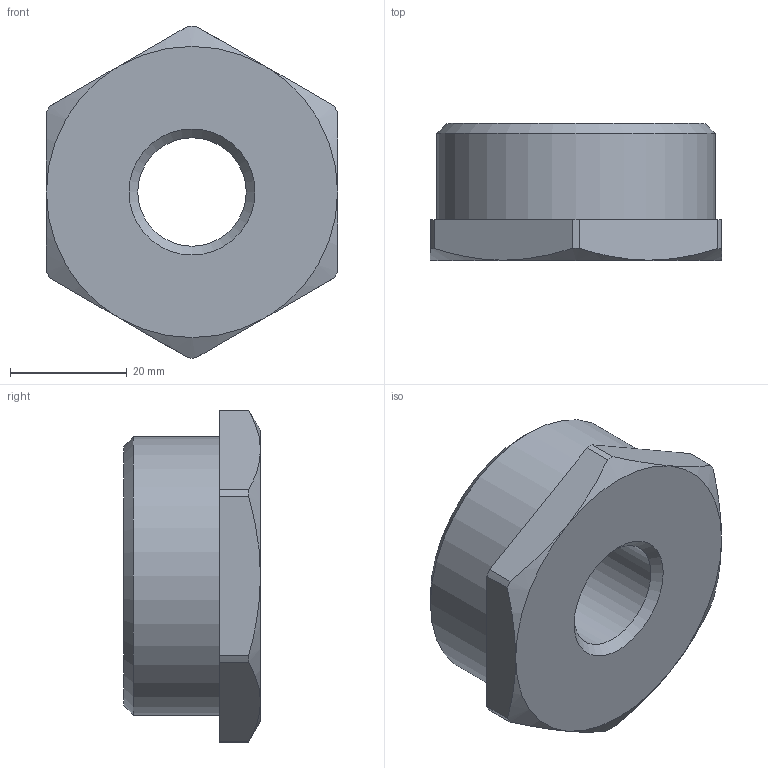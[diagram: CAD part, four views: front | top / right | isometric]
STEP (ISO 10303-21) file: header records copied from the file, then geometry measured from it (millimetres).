
FILE_DESCRIPTION(('STEP AP203'), '1');
FILE_NAME('ÂÐ.753128.035 - VTr.581.N.0804 Ôèò. ðåçüá', '2024-07-04T13:29:24', ('Boss'), (''), 'C3D Converter', 'C3D Toolkit', '');
FILE_SCHEMA(('CONFIG_CONTROL_DESIGN'));
Length unit declared in the file: millimetre
Products named in the file (1): ВР.753128.035
Bounding box: 50 x 23.5 x 57 mm (x, y, z)
Volume: 37868 mm3; surface area: 8490.8 mm2
Topology: 1 solids, 1 shells, 26 faces, 60 edges, 37 vertices
Faces by surface type: plane 9, cone 9, cylinder 8
Full cylindrical faces by diameter (mm): 18.632 x1, 47.803 x1
Entity records: 965 total; most frequent: CARTESIAN_POINT 399, DIRECTION 114, ORIENTED_EDGE 102, EDGE_CURVE 51, AXIS2_PLACEMENT_3D 48, VERTEX_POINT 35, EDGE_LOOP 32, ADVANCED_FACE 24
